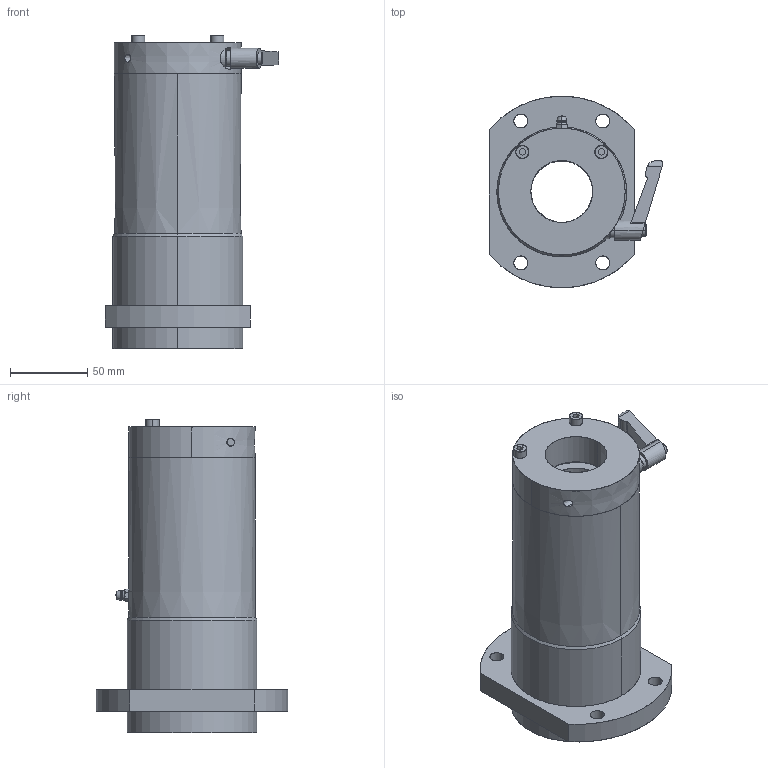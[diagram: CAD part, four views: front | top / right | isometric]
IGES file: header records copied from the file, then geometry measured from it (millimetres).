
Start section: SolidWorks IGES file using analytic representation for surfaces
Global section: file name: C:\Users\yamad\Desktop\IGES\LFWB40-CS.IGS; native system: SolidWorks 2019; preprocessor: SolidWorks 2019; author: yamad; date: 230626.172140; units: millimetre
Bounding box: 112.4 x 124 x 203 mm (x, y, z)
Surface area: 126377.2 mm2 (no closed solid volume)
Topology: 0 solids, 0 shells, 234 faces, 6041 edges, 6039 vertices
Faces by surface type: bspline 123, revolution 111
